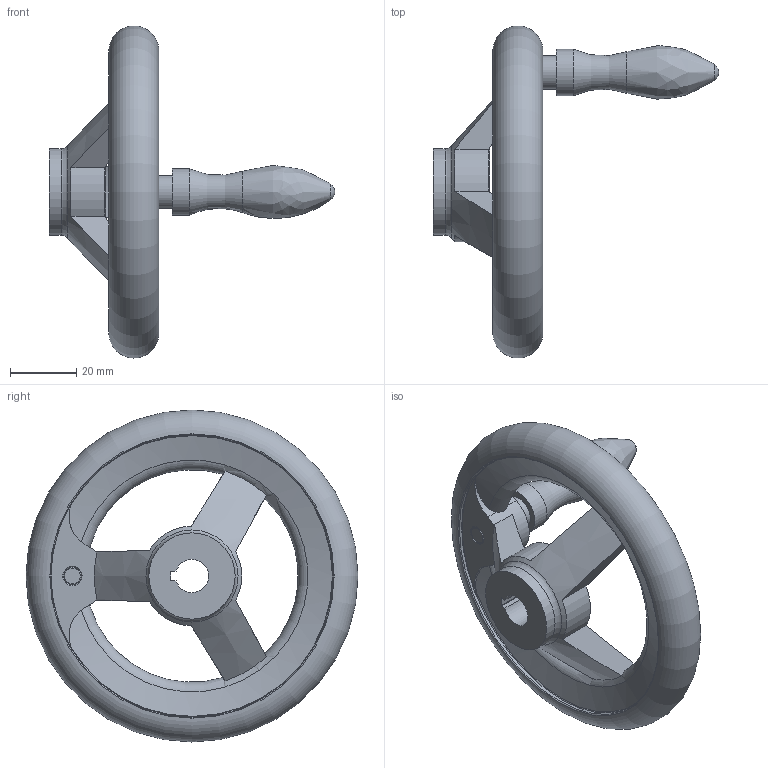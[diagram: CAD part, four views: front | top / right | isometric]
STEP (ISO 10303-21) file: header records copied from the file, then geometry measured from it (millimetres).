
FILE_DESCRIPTION( ( 'STEP AP203' ), '1' );
FILE_NAME( 'C:/Temp/Ganter_Step_05_03_2020/data/1_3/din_950/din_950_k/din_950_k_d/Handwheel DIN 950-AL-100-K10-D.stp', '2020-03-05T10:30:48', ( 'License CC BY-ND 4.0' ), ( 'CADENAS' ), ' ', 'PARTsolutions', ' ' );
FILE_SCHEMA( ( 'CONFIG_CONTROL_DESIGN' ) );
Length unit declared in the file: millimetre
Products named in the file (1): _Handwheel DIN 950-AL-100-K10-D
Bounding box: 86 x 100 x 100 mm (x, y, z)
Volume: 71332.5 mm3; surface area: 21626 mm2
Topology: 1 solids, 1 shells, 51 faces, 140 edges, 89 vertices
Faces by surface type: cylinder 17, plane 15, torus 11, cone 6, bspline 1, sphere 1
Full cylindrical faces by diameter (mm): 10 x1, 14 x1, 26 x2, 85 x2
Entity records: 1839 total; most frequent: CARTESIAN_POINT 631, DIRECTION 232, ORIENTED_EDGE 228, EDGE_CURVE 114, AXIS2_PLACEMENT_3D 104, VERTEX_POINT 85, EDGE_LOOP 77, FACE_OUTER_BOUND 66
